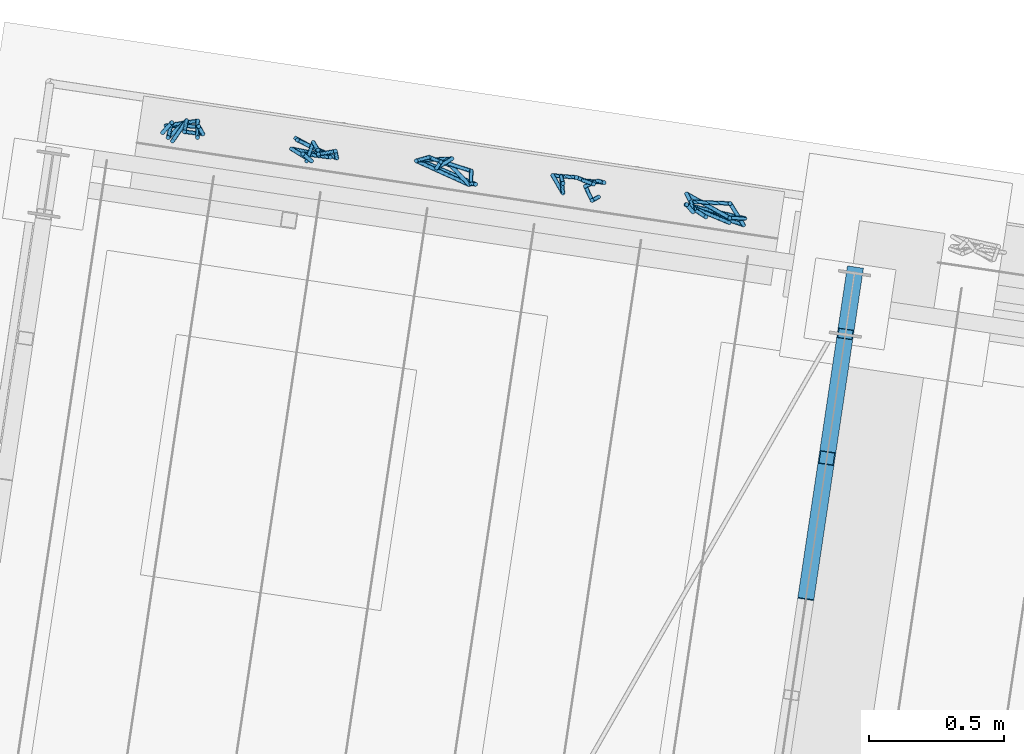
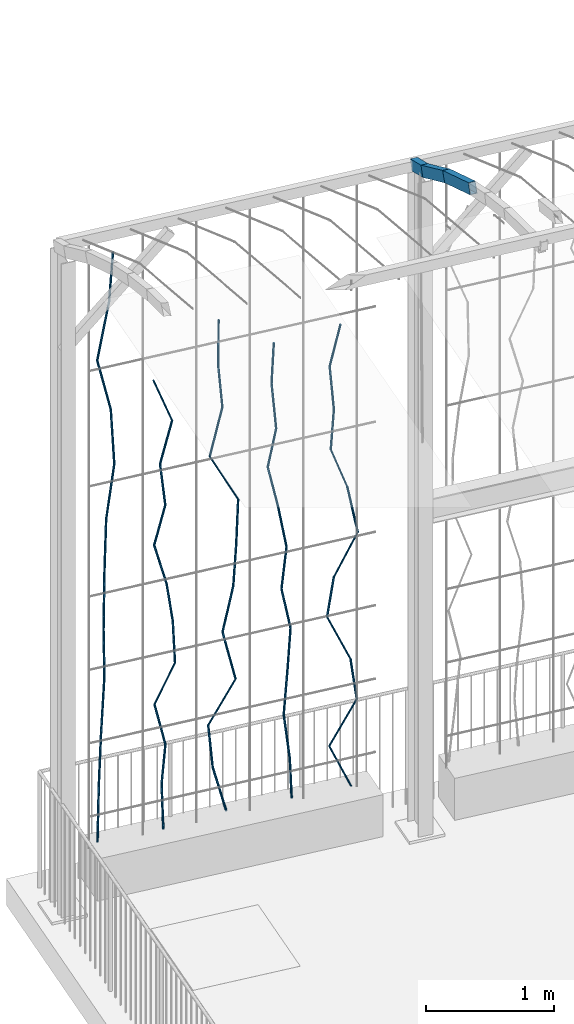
# One storey, part 114 of 143: 58 members, 2 elements without a shape of their own.
"""IFC4 building model written with IfcOpenShell, lengths in metres."""

from ifc_helpers import new_model, si_unit, direction, frame, origin_with_axes, place, context, subcontext, project, spatial, hollow_rectangle, circle, extrude, material, material_profile, profile_set, profile_usage, type_object, element, aggregate, save


model = new_model("IFC4")

# Units and contexts
model_context = context("Model", 3, precision=1e-05, world=origin_with_axes(), true_north=direction((0.0, 1.0)))
body_context = subcontext(model_context, "Body", "Model", "MODEL_VIEW")
ifc_project = project(units=[si_unit("VOLUMEUNIT", "CUBIC_METRE"), si_unit("LENGTHUNIT", "METRE"), si_unit("AREAUNIT", "SQUARE_METRE")], contexts=[model_context])

# Site, building, storey
site_placement = place(None, origin_with_axes())
site = spatial("IfcSite", under=ifc_project, at=site_placement, Name="Lares · Rua das Mercês · artigo 4771")
building_placement = place(site_placement, frame((15.0, 9.7, 15.8), z_axis=(0.0, 0.0, 1.0), x_axis=(0.989015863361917, -0.147809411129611, 0.0)))
building = spatial("IfcBuilding", under=site, at=building_placement, Name="Casa Sobreposta")
storey_placement = place(building_placement, origin_with_axes())
storey = spatial("IfcBuildingStorey", under=building, at=storey_placement, Name="00 · Habitação e estacionamento", Elevation=15.8)

# Assembly, members
assembly_1_placement = place(storey_placement, origin_with_axes())
assembly_1 = element("IfcElementAssembly", 1, at=assembly_1_placement, inside=storey, Name="Pérgola · prolongamento da estufa 6 m", ObjectType="PERGOLA_GREENHOUSE_EXTENSION", PredefinedType="USERDEFINED")
ifc_material_1 = material(Name="Aço pintado / Stahl lackiert", Category="steel")
ifc_material_profile_1 = material_profile(ifc_material_1, hollow_rectangle(XDim=0.06, YDim=0.1, WallThickness=0.004))
ifc_profile_set_1 = profile_set([ifc_material_profile_1], Name="RHS100x60x4")
ifc_profile_usage_1 = profile_usage(ifc_profile_set_1)
member_type_1 = type_object("IfcMemberType", Name="RHS100x60x4 / steel", PredefinedType="NOTDEFINED", material=ifc_profile_set_1)
member_1_placement = place(assembly_1_placement, frame((-3.0, 5.15650506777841, 6.8157371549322), z_axis=(0.0, 0.915895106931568, -0.401417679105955), x_axis=(1.0, 0.0, 0.0)))
member_1 = element("IfcMember", 2, at=member_1_placement, type_object=member_type_1, material=ifc_profile_usage_1, Name="Pérgola · arco contínuo com a estufa", context=body_context, shape_type="SweptSolid", body=[
    extrude(hollow_rectangle(XDim=0.06, YDim=0.1, WallThickness=0.004), origin_with_axes(), (0.0, 0.0, 1.0), 0.596721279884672),
])
ifc_profile_usage_2 = profile_usage(ifc_profile_set_1)
member_2_placement = place(assembly_1_placement, frame((-3.0, 5.70303916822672, 6.57620268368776), z_axis=(0.0, 0.878867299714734, -0.477066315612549), x_axis=(1.0, 0.0, 0.0)))
member_2 = element("IfcMember", 3, at=member_2_placement, type_object=member_type_1, material=ifc_profile_usage_2, Name="Pérgola · arco contínuo com a estufa", context=body_context, shape_type="SweptSolid", body=[
    extrude(hollow_rectangle(XDim=0.06, YDim=0.1, WallThickness=0.004), origin_with_axes(), (0.0, 0.0, 1.0), 0.52859183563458),
])
ifc_profile_usage_3 = profile_usage(ifc_profile_set_1)
member_3_placement = place(assembly_1_placement, frame((-3.0, 6.16760124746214, 6.3240293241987), z_axis=(0.0, 0.932880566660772, -0.360185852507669), x_axis=(1.0, 0.0, 0.0)))
member_3 = element("IfcMember", 4, at=member_3_placement, type_object=member_type_1, material=ifc_profile_usage_3, Name="Pérgola · arco contínuo com a estufa", context=body_context, shape_type="SweptSolid", body=[
    extrude(hollow_rectangle(XDim=0.06, YDim=0.1, WallThickness=0.004), origin_with_axes(), (0.0, 0.0, 1.0), 0.249119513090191),
])
aggregate(assembly_1, [member_1, member_2, member_3])

assembly_2_placement = place(storey_placement, origin_with_axes())
assembly_2 = element("IfcElementAssembly", 5, at=assembly_2_placement, inside=storey, Name="Fachada sul e pátio · estrutura e trepadeiras", ObjectType="LIVING_SHADE_TRELLIS", PredefinedType="USERDEFINED")
ifc_material_2 = material(Name="Ramos de trepadeiras", Category="wood")
ifc_material_profile_2 = material_profile(ifc_material_2, circle(Radius=0.0075))
ifc_profile_set_2 = profile_set([ifc_material_profile_2], Name="D0.015")
ifc_profile_usage_4 = profile_usage(ifc_profile_set_2)
member_type_2 = type_object("IfcMemberType", Name="D0.015 / vine_wood", PredefinedType="NOTDEFINED", material=ifc_profile_set_2)
member_4_placement = place(assembly_2_placement, frame((-5.61062551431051, 6.53102255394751, 0.35), z_axis=(0.0548183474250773, 0.0823641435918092, 0.995093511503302), x_axis=(0.83247493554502, -0.554062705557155, 0.0)))
member_4 = element("IfcMember", 6, at=member_4_placement, type_object=member_type_2, material=ifc_profile_usage_4, Name="Trepadeiras · ramo", context=body_context, shape_type="SweptSolid", body=[
    extrude(circle(Radius=0.0075), origin_with_axes(), (0.0, 0.0, 1.0), 0.511123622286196),
])
ifc_profile_usage_5 = profile_usage(ifc_profile_set_2)
member_5_placement = place(assembly_2_placement, frame((-5.58260656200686, 6.57312081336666, 0.858615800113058), z_axis=(-0.00976761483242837, -0.111772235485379, 0.993685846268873), x_axis=(-0.996203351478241, 0.0870567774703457, 0.0)))
member_5 = element("IfcMember", 7, at=member_5_placement, type_object=member_type_2, material=ifc_profile_usage_5, Name="Trepadeiras · ramo", context=body_context, shape_type="SweptSolid", body=[
    extrude(circle(Radius=0.0075), origin_with_axes(), (0.0, 0.0, 1.0), 0.511847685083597),
])
ifc_profile_usage_6 = profile_usage(ifc_profile_set_2)
member_6_placement = place(assembly_2_placement, frame((-5.58760609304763, 6.51591045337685, 1.36723160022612), z_axis=(0.112625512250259, 0.141112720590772, 0.983566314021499), x_axis=(0.781583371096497, -0.6238007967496, 0.0)))
member_6 = element("IfcMember", 8, at=member_6_placement, type_object=member_type_2, material=ifc_profile_usage_6, Name="Trepadeiras · ramo", context=body_context, shape_type="SweptSolid", body=[
    extrude(circle(Radius=0.0075), origin_with_axes(), (0.0, 0.0, 1.0), 0.517113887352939),
])
ifc_profile_usage_7 = profile_usage(ifc_profile_set_2)
member_7_placement = place(assembly_2_placement, frame((-5.52936587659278, 6.58888180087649, 1.87584740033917), z_axis=(-0.0781133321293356, -0.161839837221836, 0.983720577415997), x_axis=(-0.90058702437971, 0.434675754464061, 0.0)))
member_7 = element("IfcMember", 9, at=member_7_placement, type_object=member_type_2, material=ifc_profile_usage_7, Name="Trepadeiras · ramo", context=body_context, shape_type="SweptSolid", body=[
    extrude(circle(Radius=0.0075), origin_with_axes(), (0.0, 0.0, 1.0), 0.517032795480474),
])
ifc_profile_usage_8 = profile_usage(ifc_profile_set_2)
member_8_placement = place(assembly_2_placement, frame((-5.56975303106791, 6.50520529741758, 2.38446320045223), z_axis=(0.078738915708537, 0.159780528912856, 0.984007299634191), x_axis=(0.89699768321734, -0.442035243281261, 0.0)))
member_8 = element("IfcMember", 10, at=member_8_placement, type_object=member_type_2, material=ifc_profile_usage_8, Name="Trepadeiras · ramo", context=body_context, shape_type="SweptSolid", body=[
    extrude(circle(Radius=0.0075), origin_with_axes(), (0.0, 0.0, 1.0), 0.516882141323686),
])
ifc_profile_usage_9 = profile_usage(ifc_profile_set_2)
member_9_placement = place(assembly_2_placement, frame((-5.52905429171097, 6.58779299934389, 2.89307900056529), z_axis=(-0.00477616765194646, -0.0816811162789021, 0.996647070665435), x_axis=(-0.998294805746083, 0.0583736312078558, 0.0)))
member_9 = element("IfcMember", 11, at=member_9_placement, type_object=member_type_2, material=ifc_profile_usage_9, Name="Trepadeiras · ramo", context=body_context, shape_type="SweptSolid", body=[
    extrude(circle(Radius=0.0075), origin_with_axes(), (0.0, 0.0, 1.0), 0.510326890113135),
])
ifc_profile_usage_10 = profile_usage(ifc_profile_set_2)
member_10_placement = place(assembly_2_placement, frame((-5.53149169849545, 6.54610892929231, 3.40169480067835), z_axis=(0.134710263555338, 0.00481535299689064, 0.990873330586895), x_axis=(0.0357231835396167, -0.999361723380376, -7.96985533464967e-19)))
member_10 = element("IfcMember", 12, at=member_10_placement, type_object=member_type_2, material=ifc_profile_usage_10, Name="Trepadeiras · ramo", context=body_context, shape_type="SweptSolid", body=[
    extrude(circle(Radius=0.0075), origin_with_axes(), (0.0, 0.0, 1.0), 0.513300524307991),
])
ifc_profile_usage_11 = profile_usage(ifc_profile_set_2)
member_11_placement = place(assembly_2_placement, frame((-5.46234484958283, 6.54858065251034, 3.91031060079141), z_axis=(-0.0383027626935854, 0.0489541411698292, 0.99806632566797), x_axis=(0.787576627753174, 0.616216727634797, 0.0)))
member_11 = element("IfcMember", 13, at=member_11_placement, type_object=member_type_2, material=ifc_profile_usage_11, Name="Trepadeiras · ramo", context=body_context, shape_type="SweptSolid", body=[
    extrude(circle(Radius=0.0075), origin_with_axes(), (0.0, 0.0, 1.0), 0.509601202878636),
])
ifc_profile_usage_12 = profile_usage(ifc_profile_set_2)
member_12_placement = place(assembly_2_placement, frame((-5.48186398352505, 6.57352774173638, 4.41892640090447), z_axis=(-0.229983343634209, -0.028965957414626, 0.972763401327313), x_axis=(-0.124960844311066, 0.992161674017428, 0.0)))
member_12 = element("IfcMember", 14, at=member_12_placement, type_object=member_type_2, material=ifc_profile_usage_12, Name="Trepadeiras · ramo", context=body_context, shape_type="SweptSolid", body=[
    extrude(circle(Radius=0.0075), origin_with_axes(), (0.0, 0.0, 1.0), 0.522856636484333),
])
ifc_profile_usage_13 = profile_usage(ifc_profile_set_2)
member_13_placement = place(assembly_2_placement, frame((-5.60211230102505, 6.55838269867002, 4.92754220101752), z_axis=(0.217821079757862, 0.0672022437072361, 0.973672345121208), x_axis=(0.294808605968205, -0.955556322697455, 0.0)))
member_13 = element("IfcMember", 15, at=member_13_placement, type_object=member_type_2, material=ifc_profile_usage_13, Name="Trepadeiras · ramo", context=body_context, shape_type="SweptSolid", body=[
    extrude(circle(Radius=0.0075), origin_with_axes(), (0.0, 0.0, 1.0), 0.522368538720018),
])
ifc_profile_usage_14 = profile_usage(ifc_profile_set_2)
member_14_placement = place(assembly_2_placement, frame((-5.48832942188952, 6.59348703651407, 5.43615800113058), z_axis=(0.0159287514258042, -0.120372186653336, 0.992601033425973), x_axis=(-0.991357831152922, -0.131185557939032, 0.0)))
member_14 = element("IfcMember", 16, at=member_14_placement, type_object=member_type_2, material=ifc_profile_usage_14, Name="Trepadeiras · ramo", context=body_context, shape_type="SweptSolid", body=[
    extrude(circle(Radius=0.0075), origin_with_axes(), (0.0, 0.0, 1.0), 0.512407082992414),
])
ifc_profile_usage_15 = profile_usage(ifc_profile_set_2)
member_15_placement = place(assembly_2_placement, frame((-5.06742901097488, 6.50636980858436, 0.35), z_axis=(0.0353901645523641, 0.18278637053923, 0.982515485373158), x_axis=(0.981767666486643, -0.190084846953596, 0.0)))
member_15 = element("IfcMember", 17, at=member_15_placement, type_object=member_type_2, material=ifc_profile_usage_15, Name="Trepadeiras · ramo", context=body_context, shape_type="SweptSolid", body=[
    extrude(circle(Radius=0.0075), origin_with_axes(), (0.0, 0.0, 1.0), 0.393038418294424),
])
ifc_profile_usage_16 = profile_usage(ifc_profile_set_2)
member_16_placement = place(assembly_2_placement, frame((-5.05351931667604, 6.57821187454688, 0.736166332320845), z_axis=(0.0556737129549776, -0.068234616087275, 0.996114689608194), x_axis=(-0.774817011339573, -0.632185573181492, 0.0)))
member_16 = element("IfcMember", 18, at=member_16_placement, type_object=member_type_2, material=ifc_profile_usage_16, Name="Trepadeiras · ramo", context=body_context, shape_type="SweptSolid", body=[
    extrude(circle(Radius=0.0075), origin_with_axes(), (0.0, 0.0, 1.0), 0.387672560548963),
])
ifc_profile_usage_17 = profile_usage(ifc_profile_set_2)
member_17_placement = place(assembly_2_placement, frame((-5.03193614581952, 6.55175918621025, 1.12233266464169), z_axis=(-0.205369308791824, 0.0655980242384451, 0.976483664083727), x_axis=(0.304270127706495, 0.952585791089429, 0.0)))
member_17 = element("IfcMember", 19, at=member_17_placement, type_object=member_type_2, material=ifc_profile_usage_17, Name="Trepadeiras · ramo", context=body_context, shape_type="SweptSolid", body=[
    extrude(circle(Radius=0.0075), origin_with_axes(), (0.0, 0.0, 1.0), 0.395466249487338),
])
ifc_profile_usage_18 = profile_usage(ifc_profile_set_2)
member_18_placement = place(assembly_2_placement, frame((-5.11315277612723, 6.57770099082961, 1.50849899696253), z_axis=(0.369026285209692, -0.107377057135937, 0.923195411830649), x_axis=(-0.279387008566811, -0.960178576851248, -1.66678120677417e-17)))
member_18 = element("IfcMember", 20, at=member_18_placement, type_object=member_type_2, material=ifc_profile_usage_18, Name="Trepadeiras · ramo", context=body_context, shape_type="SweptSolid", body=[
    extrude(circle(Radius=0.0075), origin_with_axes(), (0.0, 0.0, 1.0), 0.41829316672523),
])
ifc_profile_usage_19 = profile_usage(ifc_profile_set_2)
member_19_placement = place(assembly_2_placement, frame((-4.95879160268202, 6.53278590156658, 1.89466532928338), z_axis=(-0.0229513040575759, 0.0642605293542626, 0.997669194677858), x_axis=(0.941736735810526, 0.336350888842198, 3.17038529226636e-18)))
member_19 = element("IfcMember", 21, at=member_19_placement, type_object=member_type_2, material=ifc_profile_usage_19, Name="Trepadeiras · ramo", context=body_context, shape_type="SweptSolid", body=[
    extrude(circle(Radius=0.0075), origin_with_axes(), (0.0, 0.0, 1.0), 0.387068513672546),
])
ifc_profile_usage_20 = profile_usage(ifc_profile_set_2)
member_20_placement = place(assembly_2_placement, frame((-4.96767532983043, 6.55765912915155, 2.28083166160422), z_axis=(-0.154656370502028, -0.0516676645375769, 0.986616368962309), x_axis=(-0.316865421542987, 0.948470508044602, 0.0)))
member_20 = element("IfcMember", 22, at=member_20_placement, type_object=member_type_2, material=ifc_profile_usage_20, Name="Trepadeiras · ramo", context=body_context, shape_type="SweptSolid", body=[
    extrude(circle(Radius=0.0075), origin_with_axes(), (0.0, 0.0, 1.0), 0.391404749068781),
])
ifc_profile_usage_21 = profile_usage(ifc_profile_set_2)
member_21_placement = place(assembly_2_placement, frame((-5.02820856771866, 6.53743615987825, 2.66699799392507), z_axis=(-0.254671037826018, 0.0128912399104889, 0.966941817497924), x_axis=(0.0505544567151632, 0.998721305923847, 0.0)))
member_21 = element("IfcMember", 23, at=member_21_placement, type_object=member_type_2, material=ifc_profile_usage_21, Name="Trepadeiras · ramo", context=body_context, shape_type="SweptSolid", body=[
    extrude(circle(Radius=0.0075), origin_with_axes(), (0.0, 0.0, 1.0), 0.399368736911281),
])
ifc_profile_usage_22 = profile_usage(ifc_profile_set_2)
member_22_placement = place(assembly_2_placement, frame((-5.12991621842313, 6.54258451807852, 3.05316432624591), z_axis=(0.202327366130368, -0.0854035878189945, 0.975586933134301), x_axis=(-0.388881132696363, -0.921287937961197, 0.0)))
member_22 = element("IfcMember", 24, at=member_22_placement, type_object=member_type_2, material=ifc_profile_usage_22, Name="Trepadeiras · ramo", context=body_context, shape_type="SweptSolid", body=[
    extrude(circle(Radius=0.0075), origin_with_axes(), (0.0, 0.0, 1.0), 0.395829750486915),
])
ifc_profile_usage_23 = profile_usage(ifc_profile_set_2)
member_23_placement = place(assembly_2_placement, frame((-5.04982902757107, 6.50877923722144, 3.43933065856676), z_axis=(-0.0916184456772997, 0.0549727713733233, 0.994275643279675), x_axis=(0.514507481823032, 0.857485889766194, 0.0)))
member_23 = element("IfcMember", 25, at=member_23_placement, type_object=member_type_2, material=ifc_profile_usage_23, Name="Trepadeiras · ramo", context=body_context, shape_type="SweptSolid", body=[
    extrude(circle(Radius=0.0075), origin_with_axes(), (0.0, 0.0, 1.0), 0.388389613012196),
])
ifc_profile_usage_24 = profile_usage(ifc_profile_set_2)
member_24_placement = place(assembly_2_placement, frame((-5.08541268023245, 6.53013009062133, 3.8254969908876), z_axis=(0.256565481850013, 0.00653359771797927, 0.966504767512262), x_axis=(0.0254573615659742, -0.999675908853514, 0.0)))
member_24 = element("IfcMember", 26, at=member_24_placement, type_object=member_type_2, material=ifc_profile_usage_24, Name="Trepadeiras · ramo", context=body_context, shape_type="SweptSolid", body=[
    extrude(circle(Radius=0.0075), origin_with_axes(), (0.0, 0.0, 1.0), 0.39954933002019),
])
ifc_profile_usage_25 = profile_usage(ifc_profile_set_2)
member_25_placement = place(assembly_2_placement, frame((-4.98290211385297, 6.53274058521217, 4.21166332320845), z_axis=(-0.333263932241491, 0.122975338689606, 0.934779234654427), x_axis=(0.346185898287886, 0.938165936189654, 0.0)))
member_25 = element("IfcMember", 27, at=member_25_placement, type_object=member_type_2, material=ifc_profile_usage_25, Name="Trepadeiras · ramo", context=body_context, shape_type="SweptSolid", body=[
    extrude(circle(Radius=0.0075), origin_with_axes(), (0.0, 0.0, 1.0), 0.413109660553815),
])
ifc_profile_usage_26 = profile_usage(ifc_profile_set_2)
member_26_placement = place(assembly_2_placement, frame((-4.516484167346, 6.56319348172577, 0.35), z_axis=(-0.237502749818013, 0.0547067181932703, 0.969845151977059), x_axis=(0.224463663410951, 0.974482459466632, 0.0)))
member_26 = element("IfcMember", 28, at=member_26_placement, type_object=member_type_2, material=ifc_profile_usage_26, Name="Trepadeiras · ramo", context=body_context, shape_type="SweptSolid", body=[
    extrude(circle(Radius=0.0075), origin_with_axes(), (0.0, 0.0, 1.0), 0.439365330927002),
])
ifc_profile_usage_27 = profile_usage(ifc_profile_set_2)
member_27_placement = place(assembly_2_placement, frame((-4.62083464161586, 6.58722971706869, 0.776116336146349), z_axis=(-0.106307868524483, -0.0477073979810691, 0.993188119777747), x_axis=(-0.409428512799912, 0.912342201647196, 0.0)))
member_27 = element("IfcMember", 29, at=member_27_placement, type_object=member_type_2, material=ifc_profile_usage_27, Name="Trepadeiras · ramo", context=body_context, shape_type="SweptSolid", body=[
    extrude(circle(Radius=0.0075), origin_with_axes(), (0.0, 0.0, 1.0), 0.429038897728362),
])
ifc_profile_usage_28 = profile_usage(ifc_profile_set_2)
member_28_placement = place(assembly_2_placement, frame((-4.66644485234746, 6.5667613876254, 1.2022326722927), z_axis=(0.43290575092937, -0.123104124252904, 0.892993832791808), x_axis=(-0.273522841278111, -0.961865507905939, 0.0)))
member_28 = element("IfcMember", 30, at=member_28_placement, type_object=member_type_2, material=ifc_profile_usage_28, Name="Trepadeiras · ramo", context=body_context, shape_type="SweptSolid", body=[
    extrude(circle(Radius=0.0075), origin_with_axes(), (0.0, 0.0, 1.0), 0.47717724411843),
])
ifc_profile_usage_29 = profile_usage(ifc_profile_set_2)
member_29_placement = place(assembly_2_placement, frame((-4.45987207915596, 6.50801890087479, 1.62834900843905), z_axis=(-0.190491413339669, 0.14988591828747, 0.970178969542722), x_axis=(0.618367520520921, 0.785889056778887, 0.0)))
member_29 = element("IfcMember", 31, at=member_29_placement, type_object=member_type_2, material=ifc_profile_usage_29, Name="Trepadeiras · ramo", context=body_context, shape_type="SweptSolid", body=[
    extrude(circle(Radius=0.0075), origin_with_axes(), (0.0, 0.0, 1.0), 0.43921415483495),
])
ifc_profile_usage_30 = profile_usage(ifc_profile_set_2)
member_30_placement = place(assembly_2_placement, frame((-4.54353860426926, 6.57385091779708, 2.0544653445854), z_axis=(0.1941509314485, -0.0330556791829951, 0.980414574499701), x_axis=(-0.167842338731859, -0.985813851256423, -4.3178291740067e-18)))
member_30 = element("IfcMember", 32, at=member_30_placement, type_object=member_type_2, material=ifc_profile_usage_30, Name="Trepadeiras · ramo", context=body_context, shape_type="SweptSolid", body=[
    extrude(circle(Radius=0.0075), origin_with_axes(), (0.0, 0.0, 1.0), 0.434628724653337),
])
ifc_profile_usage_31 = profile_usage(ifc_profile_set_2)
member_31_placement = place(assembly_2_placement, frame((-4.45915503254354, 6.55948397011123, 2.48058168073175), z_axis=(0.0144929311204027, -0.109943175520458, 0.993832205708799), x_axis=(-0.991423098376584, -0.130691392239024, 0.0)))
member_31 = element("IfcMember", 33, at=member_31_placement, type_object=member_type_2, material=ifc_profile_usage_31, Name="Trepadeiras · ramo", context=body_context, shape_type="SweptSolid", body=[
    extrude(circle(Radius=0.0075), origin_with_axes(), (0.0, 0.0, 1.0), 0.428760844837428),
])
ifc_profile_usage_32 = profile_usage(ifc_profile_set_2)
member_32_placement = place(assembly_2_placement, frame((-4.45294103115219, 6.51234464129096, 2.90669801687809), z_axis=(0.0391360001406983, 0.00180597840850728, 0.999232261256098), x_axis=(0.999233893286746, -7.07329602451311e-05, -0.0391359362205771)))
member_32 = element("IfcMember", 34, at=member_32_placement, type_object=member_type_2, material=ifc_profile_usage_32, Name="Trepadeiras · ramo", context=body_context, shape_type="SweptSolid", body=[
    extrude(circle(Radius=0.0075), origin_with_axes(), (0.0, 0.0, 1.0), 0.426443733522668),
])
ifc_profile_usage_33 = profile_usage(ifc_profile_set_2)
member_33_placement = place(assembly_2_placement, frame((-4.43625172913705, 6.51311478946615, 3.33281435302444), z_axis=(-0.448214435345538, 0.121140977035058, 0.885679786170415), x_axis=(0.26091291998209, 0.965362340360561, 0.0)))
member_33 = element("IfcMember", 35, at=member_33_placement, type_object=member_type_2, material=ifc_profile_usage_33, Name="Trepadeiras · ramo", context=body_context, shape_type="SweptSolid", body=[
    extrude(circle(Radius=0.0075), origin_with_axes(), (0.0, 0.0, 1.0), 0.481117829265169),
])
ifc_profile_usage_34 = profile_usage(ifc_profile_set_2)
member_34_placement = place(assembly_2_placement, frame((-4.6518956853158, 6.57139787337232, 3.75893068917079), z_axis=(0.26034641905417, 0.0511473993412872, 0.964159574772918), x_axis=(0.192774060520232, -0.981243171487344, 0.0)))
member_34 = element("IfcMember", 36, at=member_34_placement, type_object=member_type_2, material=ifc_profile_usage_34, Name="Trepadeiras · ramo", context=body_context, shape_type="SweptSolid", body=[
    extrude(circle(Radius=0.0075), origin_with_axes(), (0.0, 0.0, 1.0), 0.441956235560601),
])
ifc_profile_usage_35 = profile_usage(ifc_profile_set_2)
member_35_placement = place(assembly_2_placement, frame((-4.53683396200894, 6.59400278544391, 4.18504702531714), z_axis=(-0.11744994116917, -0.0987498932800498, 0.988156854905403), x_axis=(-0.643543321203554, 0.765409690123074, 0.0)))
member_35 = element("IfcMember", 37, at=member_35_placement, type_object=member_type_2, material=ifc_profile_usage_35, Name="Trepadeiras · ramo", context=body_context, shape_type="SweptSolid", body=[
    extrude(circle(Radius=0.0075), origin_with_axes(), (0.0, 0.0, 1.0), 0.431223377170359),
])
ifc_profile_usage_36 = profile_usage(ifc_profile_set_2)
member_36_placement = place(assembly_2_placement, frame((-4.58748112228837, 6.55141952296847, 4.61116336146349), z_axis=(0.0271477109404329, 0.0579863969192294, 0.997948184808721), x_axis=(0.905659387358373, -0.424005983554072, 0.0)))
member_36 = element("IfcMember", 38, at=member_36_placement, type_object=member_type_2, material=ifc_profile_usage_36, Name="Trepadeiras · ramo", context=body_context, shape_type="SweptSolid", body=[
    extrude(circle(Radius=0.0075), origin_with_axes(), (0.0, 0.0, 1.0), 0.426992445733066),
])
ifc_profile_usage_37 = profile_usage(ifc_profile_set_2)
member_37_placement = place(assembly_2_placement, frame((-3.97859289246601, 6.53402138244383, 0.35), z_axis=(-0.0559624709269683, -0.0404002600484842, 0.997615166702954), x_axis=(-0.585327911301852, 0.810796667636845, 0.0)))
member_37 = element("IfcMember", 39, at=member_37_placement, type_object=member_type_2, material=ifc_profile_usage_37, Name="Trepadeiras · ramo", context=body_context, shape_type="SweptSolid", body=[
    extrude(circle(Radius=0.0075), origin_with_axes(), (0.0, 0.0, 1.0), 0.397059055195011),
])
ifc_profile_usage_38 = profile_usage(ifc_profile_set_2)
member_38_placement = place(assembly_2_placement, frame((-4.00081329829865, 6.51798009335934, 0.746112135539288), z_axis=(-0.0802060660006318, 0.119900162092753, 0.989540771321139), x_axis=(0.831177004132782, 0.556007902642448, 0.0)))
member_38 = element("IfcMember", 40, at=member_38_placement, type_object=member_type_2, material=ifc_profile_usage_38, Name="Trepadeiras · ramo", context=body_context, shape_type="SweptSolid", body=[
    extrude(circle(Radius=0.0075), origin_with_axes(), (0.0, 0.0, 1.0), 0.400298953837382),
])
ifc_profile_usage_39 = profile_usage(ifc_profile_set_2)
member_39_placement = place(assembly_2_placement, frame((-4.03291970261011, 6.56597600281, 1.14222427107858), z_axis=(0.104885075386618, 0.0666123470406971, 0.992250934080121), x_axis=(0.536115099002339, -0.844144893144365, 0.0)))
member_39 = element("IfcMember", 41, at=member_39_placement, type_object=member_type_2, material=ifc_profile_usage_39, Name="Trepadeiras · ramo", context=body_context, shape_type="SweptSolid", body=[
    extrude(circle(Radius=0.0075), origin_with_axes(), (0.0, 0.0, 1.0), 0.399205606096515),
])
ifc_profile_usage_40 = profile_usage(ifc_profile_set_2)
member_40_placement = place(assembly_2_placement, frame((-3.99104899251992, 6.5925680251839, 1.53833640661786), z_axis=(0.0626536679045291, -0.00712374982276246, 0.998009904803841), x_axis=(-0.112972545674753, -0.993598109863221, 0.0)))
member_40 = element("IfcMember", 42, at=member_40_placement, type_object=member_type_2, material=ifc_profile_usage_40, Name="Trepadeiras · ramo", context=body_context, shape_type="SweptSolid", body=[
    extrude(circle(Radius=0.0075), origin_with_axes(), (0.0, 0.0, 1.0), 0.396902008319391),
])
ifc_profile_usage_41 = profile_usage(ifc_profile_set_2)
member_41_placement = place(assembly_2_placement, frame((-3.96618162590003, 6.58974059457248, 1.93444854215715), z_axis=(-0.192543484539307, -0.00909052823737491, 0.981246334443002), x_axis=(-0.0471603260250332, 0.998887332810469, 0.0)))
member_41 = element("IfcMember", 43, at=member_41_placement, type_object=member_type_2, material=ifc_profile_usage_41, Name="Trepadeiras · ramo", context=body_context, shape_type="SweptSolid", body=[
    extrude(circle(Radius=0.0075), origin_with_axes(), (0.0, 0.0, 1.0), 0.403682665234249),
])
ifc_profile_usage_42 = profile_usage(ifc_profile_set_2)
member_42_placement = place(assembly_2_placement, frame((-4.04390809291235, 6.58607090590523, 2.33056067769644), z_axis=(0.0995202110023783, -0.0194869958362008, 0.99484470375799), x_axis=(-0.192160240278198, -0.981363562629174, 0.0)))
member_42 = element("IfcMember", 44, at=member_42_placement, type_object=member_type_2, material=ifc_profile_usage_42, Name="Trepadeiras · ramo", context=body_context, shape_type="SweptSolid", body=[
    extrude(circle(Radius=0.0075), origin_with_axes(), (0.0, 0.0, 1.0), 0.398164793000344),
])
ifc_profile_usage_43 = profile_usage(ifc_profile_set_2)
member_43_placement = place(assembly_2_placement, frame((-4.00428264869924, 6.57831187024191, 2.72667281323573), z_axis=(-0.164761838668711, 0.0378014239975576, 0.985608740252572), x_axis=(0.223620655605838, 0.974676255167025, 0.0)))
member_43 = element("IfcMember", 45, at=member_43_placement, type_object=member_type_2, material=ifc_profile_usage_43, Name="Trepadeiras · ramo", context=body_context, shape_type="SweptSolid", body=[
    extrude(circle(Radius=0.0075), origin_with_axes(), (0.0, 0.0, 1.0), 0.401895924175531),
])
ifc_profile_usage_44 = profile_usage(ifc_profile_set_2)
member_44_placement = place(assembly_2_placement, frame((-4.07049976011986, 6.59350410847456, 3.12278494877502), z_axis=(-0.217023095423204, -0.0139242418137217, 0.976067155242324), x_axis=(-0.0640285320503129, 0.997948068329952, 0.0)))
member_44 = element("IfcMember", 46, at=member_44_placement, type_object=member_type_2, material=ifc_profile_usage_44, Name="Trepadeiras · ramo", context=body_context, shape_type="SweptSolid", body=[
    extrude(circle(Radius=0.0075), origin_with_axes(), (0.0, 0.0, 1.0), 0.405824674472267),
])
ifc_profile_usage_45 = profile_usage(ifc_profile_set_2)
member_45_placement = place(assembly_2_placement, frame((-4.15857308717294, 6.58785330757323, 3.51889708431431), z_axis=(0.117355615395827, -0.146977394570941, 0.982153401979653), x_axis=(-0.781455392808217, -0.623961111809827, 0.0)))
member_45 = element("IfcMember", 47, at=member_45_placement, type_object=member_type_2, material=ifc_profile_usage_45, Name="Trepadeiras · ramo", context=body_context, shape_type="SweptSolid", body=[
    extrude(circle(Radius=0.0075), origin_with_axes(), (0.0, 0.0, 1.0), 0.40330984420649),
])
ifc_profile_usage_46 = profile_usage(ifc_profile_set_2)
member_46_placement = place(assembly_2_placement, frame((-4.1112424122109, 6.52857587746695, 3.91500921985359), z_axis=(-0.038247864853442, 0.148096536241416, 0.988233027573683), x_axis=(0.968230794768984, 0.250058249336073, 0.0)))
member_46 = element("IfcMember", 48, at=member_46_placement, type_object=member_type_2, material=ifc_profile_usage_46, Name="Trepadeiras · ramo", context=body_context, shape_type="SweptSolid", body=[
    extrude(circle(Radius=0.0075), origin_with_axes(), (0.0, 0.0, 1.0), 0.400828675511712),
])
ifc_profile_usage_47 = profile_usage(ifc_profile_set_2)
member_47_placement = place(assembly_2_placement, frame((-4.12657325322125, 6.58793721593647, 4.31112135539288), z_axis=(0.0245630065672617, -0.0592559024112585, 0.997940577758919), x_axis=(-0.923778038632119, -0.382928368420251, 0.0)))
member_47 = element("IfcMember", 49, at=member_47_placement, type_object=member_type_2, material=ifc_profile_usage_47, Name="Trepadeiras · ramo", context=body_context, shape_type="SweptSolid", body=[
    extrude(circle(Radius=0.0075), origin_with_axes(), (0.0, 0.0, 1.0), 0.396929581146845),
])
ifc_profile_usage_48 = profile_usage(ifc_profile_set_2)
member_48_placement = place(assembly_2_placement, frame((-3.48595036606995, 6.51152451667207, 0.35), z_axis=(-0.387050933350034, 0.0963177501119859, 0.917013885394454), x_axis=(0.2414854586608, 0.970404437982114, 0.0)))
member_48 = element("IfcMember", 50, at=member_48_placement, type_object=member_type_2, material=ifc_profile_usage_48, Name="Trepadeiras · ramo", context=body_context, shape_type="SweptSolid", body=[
    extrude(circle(Radius=0.0075), origin_with_axes(), (0.0, 0.0, 1.0), 0.438608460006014),
])
ifc_profile_usage_49 = profile_usage(ifc_profile_set_2)
member_49_placement = place(assembly_2_placement, frame((-3.6557141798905, 6.55377029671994, 0.752210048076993), z_axis=(0.486269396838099, -0.0394758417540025, 0.872916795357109), x_axis=(-0.0809148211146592, -0.996721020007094, -6.2076865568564e-18)))
member_49 = element("IfcMember", 51, at=member_49_placement, type_object=member_type_2, material=ifc_profile_usage_49, Name="Trepadeiras · ramo", context=body_context, shape_type="SweptSolid", body=[
    extrude(circle(Radius=0.0075), origin_with_axes(), (0.0, 0.0, 1.0), 0.46076561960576),
])
ifc_profile_usage_50 = profile_usage(ifc_profile_set_2)
member_50_placement = place(assembly_2_placement, frame((-3.43165795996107, 6.53558118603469, 1.15442009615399), z_axis=(-0.13611773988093, -0.0169348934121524, 0.990547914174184), x_axis=(-0.123461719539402, 0.992349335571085, 0.0)))
member_50 = element("IfcMember", 52, at=member_50_placement, type_object=member_type_2, material=ifc_profile_usage_50, Name="Trepadeiras · ramo", context=body_context, shape_type="SweptSolid", body=[
    extrude(circle(Radius=0.0075), origin_with_axes(), (0.0, 0.0, 1.0), 0.406048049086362),
])
ifc_profile_usage_51 = profile_usage(ifc_profile_set_2)
member_51_placement = place(assembly_2_placement, frame((-3.48692830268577, 6.5287048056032, 1.55663014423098), z_axis=(-0.387536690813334, 0.147038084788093, 0.910052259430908), x_axis=(0.354741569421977, 0.934964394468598, 0.0)))
member_51 = element("IfcMember", 53, at=member_51_placement, type_object=member_type_2, material=ifc_profile_usage_51, Name="Trepadeiras · ramo", context=body_context, shape_type="SweptSolid", body=[
    extrude(circle(Radius=0.0075), origin_with_axes(), (0.0, 0.0, 1.0), 0.441963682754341),
])
ifc_profile_usage_52 = profile_usage(ifc_profile_set_2)
member_52_placement = place(assembly_2_placement, frame((-3.65820544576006, 6.59369029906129, 1.95884019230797), z_axis=(0.0899888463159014, -0.125264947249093, 0.98803375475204), x_axis=(-0.81215464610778, -0.583442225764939, 0.0)))
member_52 = element("IfcMember", 54, at=member_52_placement, type_object=member_type_2, material=ifc_profile_usage_52, Name="Trepadeiras · ramo", context=body_context, shape_type="SweptSolid", body=[
    extrude(circle(Radius=0.0075), origin_with_axes(), (0.0, 0.0, 1.0), 0.407081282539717),
])
ifc_profile_usage_53 = profile_usage(ifc_profile_set_2)
member_53_placement = place(assembly_2_placement, frame((-3.62157267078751, 6.54269728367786, 2.36105024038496), z_axis=(0.423820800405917, -0.0706905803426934, 0.902983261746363), x_axis=(-0.164520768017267, -0.98637361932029, 0.0)))
member_53 = element("IfcMember", 55, at=member_53_placement, type_object=member_type_2, material=ifc_profile_usage_53, Name="Trepadeiras · ramo", context=body_context, shape_type="SweptSolid", body=[
    extrude(circle(Radius=0.0075), origin_with_axes(), (0.0, 0.0, 1.0), 0.445423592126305),
])
ifc_profile_usage_54 = profile_usage(ifc_profile_set_2)
member_54_placement = place(assembly_2_placement, frame((-3.43279288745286, 6.51121003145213, 2.76326028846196), z_axis=(-0.146521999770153, 0.171712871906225, 0.974189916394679), x_axis=(0.760700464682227, 0.649103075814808, 0.0)))
member_54 = element("IfcMember", 56, at=member_54_placement, type_object=member_type_2, material=ifc_profile_usage_54, Name="Trepadeiras · ramo", context=body_context, shape_type="SweptSolid", body=[
    extrude(circle(Radius=0.0075), origin_with_axes(), (0.0, 0.0, 1.0), 0.412866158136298),
])
ifc_profile_usage_55 = profile_usage(ifc_profile_set_2)
member_55_placement = place(assembly_2_placement, frame((-3.49328686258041, 6.5821044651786, 3.16547033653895), z_axis=(-0.337061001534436, -0.0347303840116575, 0.940842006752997), x_axis=(-0.102496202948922, 0.99473339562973, 0.0)))
member_55 = element("IfcMember", 57, at=member_55_placement, type_object=member_type_2, material=ifc_profile_usage_55, Name="Trepadeiras · ramo", context=body_context, shape_type="SweptSolid", body=[
    extrude(circle(Radius=0.0075), origin_with_axes(), (0.0, 0.0, 1.0), 0.427500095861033),
])
ifc_profile_usage_56 = profile_usage(ifc_profile_set_2)
member_56_placement = place(assembly_2_placement, frame((-3.6373804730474, 6.56725722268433, 3.56768038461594), z_axis=(0.0295589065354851, -0.0886838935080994, 0.995621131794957), x_axis=(-0.948690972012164, -0.316204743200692, 0.0)))
member_56 = element("IfcMember", 58, at=member_56_placement, type_object=member_type_2, material=ifc_profile_usage_56, Name="Trepadeiras · ramo", context=body_context, shape_type="SweptSolid", body=[
    extrude(circle(Radius=0.0075), origin_with_axes(), (0.0, 0.0, 1.0), 0.403979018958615),
])
ifc_profile_usage_57 = profile_usage(ifc_profile_set_2)
member_57_placement = place(assembly_2_placement, frame((-3.62543929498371, 6.5314307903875, 3.96989043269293), z_axis=(-0.0654752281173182, 0.056205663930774, 0.9962700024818), x_axis=(0.651352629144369, 0.758775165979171, 0.0)))
member_57 = element("IfcMember", 59, at=member_57_placement, type_object=member_type_2, material=ifc_profile_usage_57, Name="Trepadeiras · ramo", context=body_context, shape_type="SweptSolid", body=[
    extrude(circle(Radius=0.0075), origin_with_axes(), (0.0, 0.0, 1.0), 0.403715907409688),
])
ifc_profile_usage_58 = profile_usage(ifc_profile_set_2)
member_58_placement = place(assembly_2_placement, frame((-3.65187268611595, 6.55412191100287, 4.37210048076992), z_axis=(0.186629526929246, -0.0839762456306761, 0.978834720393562), x_axis=(-0.410336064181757, -0.911934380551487, 0.0)))
member_58 = element("IfcMember", 60, at=member_58_placement, type_object=member_type_2, material=ifc_profile_usage_58, Name="Trepadeiras · ramo", context=body_context, shape_type="SweptSolid", body=[
    extrude(circle(Radius=0.0075), origin_with_axes(), (0.0, 0.0, 1.0), 0.41090700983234),
])
aggregate(assembly_2, [member_4, member_5, member_6, member_7, member_8, member_9, member_10, member_11, member_12, member_13, member_14, member_15, member_16, member_17, member_18, member_19, member_20, member_21, member_22, member_23, member_24, member_25, member_26, member_27, member_28, member_29, member_30, member_31, member_32, member_33, member_34, member_35, member_36, member_37, member_38, member_39, member_40, member_41, member_42, member_43, member_44, member_45, member_46, member_47, member_48, member_49, member_50, member_51, member_52, member_53, member_54, member_55, member_56, member_57, member_58])

save(model, "model.ifc")
